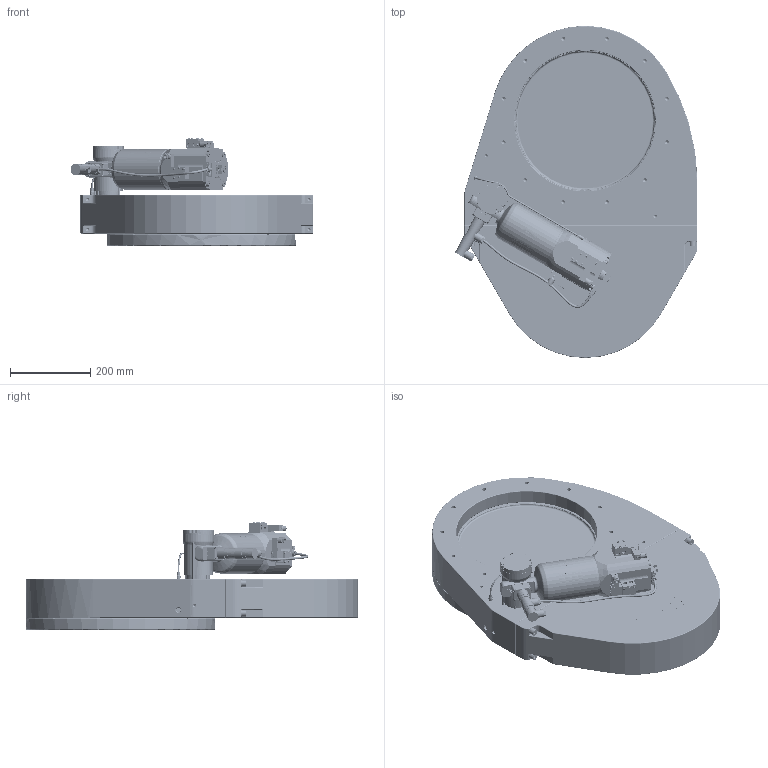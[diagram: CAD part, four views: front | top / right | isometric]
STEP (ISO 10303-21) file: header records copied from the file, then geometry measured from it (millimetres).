
FILE_DESCRIPTION(/* description */ (''),/* implementation_level */ '2;1');
FILE_NAME(/* name */ '1338675904_203.stp',/* time_stamp */ '2011-04-26T09:49:32+02:00',/* author */ (''),/* organization */ (''),/* preprocessor_version */ 'ST-DEVELOPER v11',/* originating_system */ 'SIEMENS UGS NX 6.0',/* authorisation */ '');
FILE_SCHEMA (('CONFIG_CONTROL_DESIGN'));
Products named in the file (84): N-8406-013_3.2; N-8406-013_2.1; 73662-01.1; 202839_1.2; N-6121-039.1; N-6099-417.1; 75429-01_16214ID; 69252-01_16212ID; 69252-01_16193ID; 82555-01; n-8210-239; 82610-01; n-8406-007; n-8406-551; n-6030-011; 69672-01; n-8406-006_1; 375433_16249ID; 77379-01.1; T-9001-055.1; N-6016-478.2; n-6024-531; 69846-01; 388563_MODEL; N-7636-200.2; N-6091-505.1; N-8504-005.2; N-7557-016_1.1; N-7557-018.1; N-7557-016_2.1; N-7557-016_3.1; N-6024-524.1; N-5018-005.1; 311105.1; 358909.3; N-6071-446.1; 245276.2; 322093.2; N-6203-412.1; 248044.2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
Assembly tree (160 placements, depth 6):
  356256.2
    309436.2
      309493.2_16253ID
    N-6005-844.1  x4
    224833.1  x24
    n-6134-410  x4
    316197
    333016.4
      308105.5
      309656.1
      309711.1
      308477.4
      265277.4
      246211.3
      222717.1  x2
      320171.1
      310276.1
      265274.6
      244112.1
      244151.3
      328914.2
      328911.1
      210139.2
      229712.2
      328908.4
      N-6121-017.2  x4
      N-7607-023.1
      236055.1  x2
      N-6091-462.1  x2
      N-6072-439.1
      N-5002-498.1
      N-6005-828.1  x4
      248044.2
      N-6203-412.1
      322093.2  x3
      245276.2
      N-6071-446.1
      358909.3
      311105.1
    94800-R1.7_NX-ARRAGMNTKONFIG1
      N-5018-005.1  x2
      N-6024-524.1  x6
      N-7557-016_3.1
      N-7557-016_2.1
      N-7557-018.1
      N-7557-016_1.1
    94800-R1.7_NX-ARRAGMNTKONFIG2
      N-5018-005.1  x2
      N-6024-524.1  x6
      N-7557-016_3.1
      N-7557-016_2.1
      N-7557-018.1
      N-7557-016_1.1
    394129
      243023.17
        N-8504-005.2
        69846-01
        n-6024-531  x4
        71852-r1
          n-8406-006_1
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Bounding box: 603.15 x 825 x 266.97 mm (x, y, z)
Volume: 18474170.2 mm3; surface area: 2795139.5 mm2
Topology: 220 solids, 220 shells, 5934 faces, 14464 edges, 9320 vertices
Faces by surface type: plane 3074, cylinder 1347, cone 440, torus 404, bspline 386, extrusion 222, sphere 57, revolution 4
Full cylindrical faces by diameter (mm): 0.5 x2, 1 x10, 1.2 x10, 1.4 x2, 1.5 x14, 1.6 x6, 1.95 x4, 2 x5, 2.115 x4, 2.2 x4, 2.25 x4, 2.3 x5, 2.5 x31, 2.7 x4, 2.75 x12, 2.8 x2, 2.856 x4, 3 x39, 3.2 x6, 3.26 x3, 3.3 x7, 3.4 x14, 3.5 x17, 3.9 x4, 3.989 x2, 4 x21, 4.054 x2, 4.16 x2, 4.2 x10, 4.5 x7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
Entity records: 162841 total; most frequent: CARTESIAN_POINT 48082, DIRECTION 20338, ORIENTED_EDGE 20326, EDGE_CURVE 10163, AXIS2_PLACEMENT_3D 7716, VERTEX_POINT 7303, EDGE_LOOP 6615, VECTOR 4902
